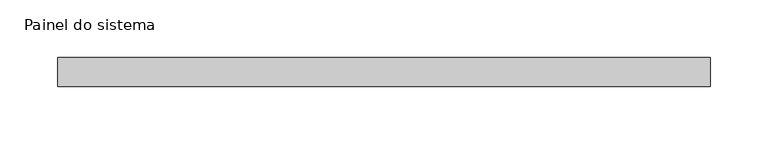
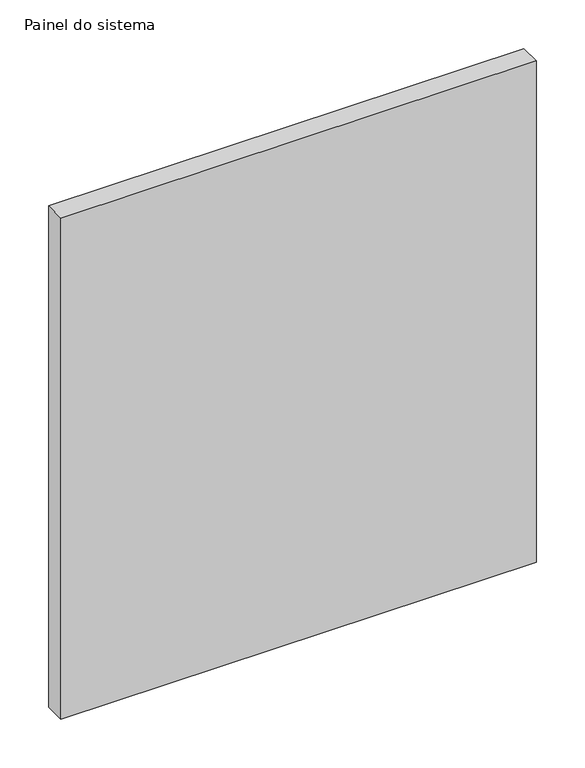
"""IFC4 building model written with IfcOpenShell, lengths in millimetres: plate geometry, Painel do sistema : Envidraçado."""

from ifc_helpers import new_model, si_unit, origin, origin_with_axes, place, context, project, spatial, polyline, outline, extrude, source, transform, mapped, element, save


def painel_do_sistema_400cf905(model_context):
    return source(origin(), model_context, "Body", "SweptSolid", [
        extrude(outline(polyline([(282.5, 24.5), (-282.5, 24.5), (-282.5, 49.5), (282.5, 49.5), (282.5, 24.5)])), origin_with_axes(), (0.0, 0.0, 1.0), 630.0),
    ])


if __name__ == "__main__":
    model = new_model("IFC4")
    model_context = context("Model", 3, world=origin())
    ifc_project = project(units=[si_unit("LENGTHUNIT", "METRE", prefix="MILLI")], contexts=[model_context])
    site = spatial("IfcSite", under=ifc_project)
    building = spatial("IfcBuilding", under=site)
    placement = place(None, origin())
    painel_do_sistema_shape = painel_do_sistema_400cf905(model_context)
    element("IfcPlate", 1, ObjectType="Painel do sistema : Envidraçado", at=placement, inside=building, context=model_context, shape_type="MappedRepresentation", body=[
        mapped(painel_do_sistema_shape, transform((0.0, 0.0, 0.0), x_axis=(1.0, 0.0, 0.0), y_axis=(0.0, 1.0, 0.0), z_axis=(0.0, 0.0, 1.0))),
    ])
    save(model, "model.ifc")
